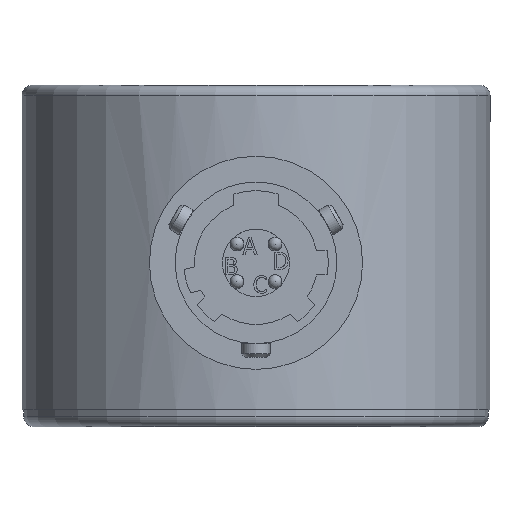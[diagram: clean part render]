
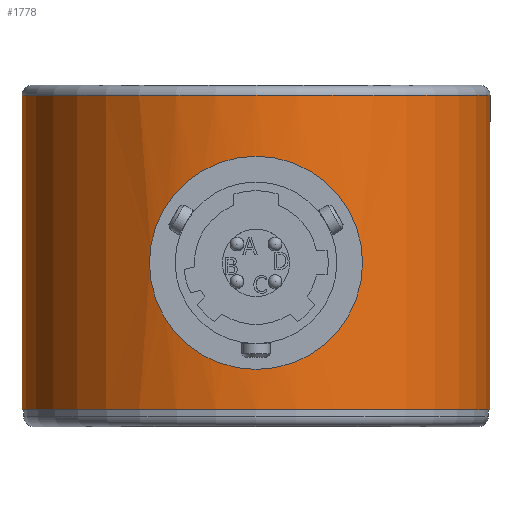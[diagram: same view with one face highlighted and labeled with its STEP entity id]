
A CAD part, front view. The second image highlights one B-rep face of the part: STEP entity #1778.
In plain terms, the highlighted cylindrical face has radius 17.399 mm (diameter 34.798 mm), a full revolution.
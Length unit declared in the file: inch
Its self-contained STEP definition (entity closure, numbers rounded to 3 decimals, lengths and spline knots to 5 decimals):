
#21=B_SPLINE_CURVE_WITH_KNOTS('',3,(#2686,#2687,#2688,#2689,#2690,#2691,
#2692,#2693,#2694,#2695,#2696,#2697,#2698,#2699,#2700,#2701,#2702,#2703),
 .UNSPECIFIED.,.F.,.F.,(4,2,2,2,2,2,2,2,4),(0.,0.3017,0.6034,
0.90458,1.20576,1.50694,1.80812,2.10982,
2.41152),.UNSPECIFIED.);
#22=B_SPLINE_CURVE_WITH_KNOTS('',3,(#2704,#2705,#2706,#2707,#2708,#2709,
#2710,#2711,#2712,#2713,#2714,#2715,#2716,#2717,#2718,#2719,#2720,#2721),
 .UNSPECIFIED.,.F.,.F.,(4,2,2,2,2,2,2,2,4),(2.41152,2.71322,
3.01492,3.3161,3.61728,3.91846,4.21964,
4.52134,4.82304),.UNSPECIFIED.);
#113=FACE_BOUND('',#235,.T.);
#145=FACE_OUTER_BOUND('',#234,.T.);
#234=EDGE_LOOP('',(#1202,#1203,#1204,#1205,#1206,#1207,#1208));
#235=EDGE_LOOP('',(#1209,#1210));
#351=CIRCLE('',#1918,0.685);
#352=CIRCLE('',#1919,0.685);
#353=CIRCLE('',#1920,0.685);
#355=CIRCLE('',#1923,0.685);
#356=CIRCLE('',#1924,0.685);
#443=LINE('',#2683,#553);
#553=VECTOR('',#2193,0.685);
#689=VERTEX_POINT('',#2671);
#690=VERTEX_POINT('',#2672);
#691=VERTEX_POINT('',#2674);
#692=VERTEX_POINT('',#2679);
#693=VERTEX_POINT('',#2680);
#694=VERTEX_POINT('',#2684);
#695=VERTEX_POINT('',#2685);
#901=EDGE_CURVE('',#689,#690,#351,.T.);
#902=EDGE_CURVE('',#691,#689,#352,.T.);
#903=EDGE_CURVE('',#690,#691,#353,.T.);
#905=EDGE_CURVE('',#692,#693,#355,.T.);
#906=EDGE_CURVE('',#693,#692,#356,.T.);
#907=EDGE_CURVE('',#693,#691,#443,.T.);
#908=EDGE_CURVE('',#694,#695,#21,.T.);
#909=EDGE_CURVE('',#695,#694,#22,.T.);
#1202=ORIENTED_EDGE('',*,*,#905,.F.);
#1203=ORIENTED_EDGE('',*,*,#906,.F.);
#1204=ORIENTED_EDGE('',*,*,#907,.T.);
#1205=ORIENTED_EDGE('',*,*,#902,.T.);
#1206=ORIENTED_EDGE('',*,*,#901,.T.);
#1207=ORIENTED_EDGE('',*,*,#903,.T.);
#1208=ORIENTED_EDGE('',*,*,#907,.F.);
#1209=ORIENTED_EDGE('',*,*,#908,.F.);
#1210=ORIENTED_EDGE('',*,*,#909,.F.);
#1650=CYLINDRICAL_SURFACE('',#1922,0.685);
#1778=ADVANCED_FACE('',(#145,#113),#1650,.T.);
#1918=AXIS2_PLACEMENT_3D('',#2673,#2179,#2180);
#1919=AXIS2_PLACEMENT_3D('',#2675,#2181,#2182);
#1920=AXIS2_PLACEMENT_3D('',#2676,#2183,#2184);
#1922=AXIS2_PLACEMENT_3D('',#2678,#2187,#2188);
#1923=AXIS2_PLACEMENT_3D('',#2681,#2189,#2190);
#1924=AXIS2_PLACEMENT_3D('',#2682,#2191,#2192);
#2179=DIRECTION('center_axis',(0.,0.,
-1.));
#2180=DIRECTION('ref_axis',(1.,0.,0.));
#2181=DIRECTION('center_axis',(0.,0.,
-1.));
#2182=DIRECTION('ref_axis',(1.,0.,0.));
#2183=DIRECTION('center_axis',(0.,0.,
-1.));
#2184=DIRECTION('ref_axis',(1.,0.,0.));
#2187=DIRECTION('center_axis',(0.,0.,
-1.));
#2188=DIRECTION('ref_axis',(1.,0.,0.));
#2189=DIRECTION('center_axis',(0.,0.,
-1.));
#2190=DIRECTION('ref_axis',(1.,0.,0.));
#2191=DIRECTION('center_axis',(0.,0.,
-1.));
#2192=DIRECTION('ref_axis',(1.,0.,0.));
#2193=DIRECTION('',(0.,0.,1.));
#2671=CARTESIAN_POINT('',(0.5656,1.12873,0.59636));
#2672=CARTESIAN_POINT('',(-0.1194,0.44373,0.59636));
#2673=CARTESIAN_POINT('Origin',(-0.1194,1.12873,0.59636));
#2674=CARTESIAN_POINT('',(-0.8044,1.12873,0.59636));
#2675=CARTESIAN_POINT('Origin',(-0.1194,1.12873,0.59636));
#2676=CARTESIAN_POINT('Origin',(-0.1194,1.12873,0.59636));
#2678=CARTESIAN_POINT('Origin',(-0.1194,1.12873,0.13636));
#2679=CARTESIAN_POINT('',(0.5656,1.12873,-0.32364));
#2680=CARTESIAN_POINT('',(-0.8044,1.12873,-0.32364));
#2681=CARTESIAN_POINT('Origin',(-0.1194,1.12873,-0.32364));
#2682=CARTESIAN_POINT('Origin',(-0.1194,1.12873,-0.32364));
#2683=CARTESIAN_POINT('',(-0.8044,1.12873,0.13636));
#2684=CARTESIAN_POINT('',(0.1906,0.51789,0.10636));
#2685=CARTESIAN_POINT('',(-0.4294,0.51789,0.10636));
#2686=CARTESIAN_POINT('Ctrl Pts',(0.1906,0.51789,0.10636));
#2687=CARTESIAN_POINT('Ctrl Pts',(0.1906,0.51789,0.14595));
#2688=CARTESIAN_POINT('Ctrl Pts',(0.18257,0.51363,0.18771));
#2689=CARTESIAN_POINT('Ctrl Pts',(0.15078,0.49901,0.26387));
#2690=CARTESIAN_POINT('Ctrl Pts',(0.12704,0.48894,0.29833));
#2691=CARTESIAN_POINT('Ctrl Pts',(0.07262,0.47056,
0.35275));
#2692=CARTESIAN_POINT('Ctrl Pts',(0.03814,0.46096,0.37652));
#2693=CARTESIAN_POINT('Ctrl Pts',(-0.03809,0.44747,
0.40835));
#2694=CARTESIAN_POINT('Ctrl Pts',(-0.07987,0.44373,
0.41636));
#2695=CARTESIAN_POINT('Ctrl Pts',(-0.15892,0.44373,
0.41636));
#2696=CARTESIAN_POINT('Ctrl Pts',(-0.20071,0.44747,
0.40835));
#2697=CARTESIAN_POINT('Ctrl Pts',(-0.27693,0.46096,0.37652));
#2698=CARTESIAN_POINT('Ctrl Pts',(-0.31142,0.47056,0.35275));
#2699=CARTESIAN_POINT('Ctrl Pts',(-0.36583,0.48894,
0.29833));
#2700=CARTESIAN_POINT('Ctrl Pts',(-0.38957,0.49901,
0.26387));
#2701=CARTESIAN_POINT('Ctrl Pts',(-0.42137,0.51363,
0.18771));
#2702=CARTESIAN_POINT('Ctrl Pts',(-0.4294,0.51789,
0.14595));
#2703=CARTESIAN_POINT('Ctrl Pts',(-0.4294,0.51789,
0.10636));
#2704=CARTESIAN_POINT('Ctrl Pts',(-0.4294,0.51789,
0.10636));
#2705=CARTESIAN_POINT('Ctrl Pts',(-0.4294,0.51789,
0.06677));
#2706=CARTESIAN_POINT('Ctrl Pts',(-0.42137,0.51363,
0.02501));
#2707=CARTESIAN_POINT('Ctrl Pts',(-0.38957,0.49901,-0.05114));
#2708=CARTESIAN_POINT('Ctrl Pts',(-0.36583,0.48894,
-0.08561));
#2709=CARTESIAN_POINT('Ctrl Pts',(-0.31142,0.47056,-0.14003));
#2710=CARTESIAN_POINT('Ctrl Pts',(-0.27693,0.46096,
-0.1638));
#2711=CARTESIAN_POINT('Ctrl Pts',(-0.20071,0.44747,
-0.19562));
#2712=CARTESIAN_POINT('Ctrl Pts',(-0.15892,0.44373,
-0.20364));
#2713=CARTESIAN_POINT('Ctrl Pts',(-0.07987,0.44373,
-0.20364));
#2714=CARTESIAN_POINT('Ctrl Pts',(-0.03809,0.44747,
-0.19562));
#2715=CARTESIAN_POINT('Ctrl Pts',(0.03814,0.46096,
-0.1638));
#2716=CARTESIAN_POINT('Ctrl Pts',(0.07262,0.47056,-0.14003));
#2717=CARTESIAN_POINT('Ctrl Pts',(0.12704,0.48894,-0.08561));
#2718=CARTESIAN_POINT('Ctrl Pts',(0.15078,0.49901,-0.05114));
#2719=CARTESIAN_POINT('Ctrl Pts',(0.18257,0.51363,0.02501));
#2720=CARTESIAN_POINT('Ctrl Pts',(0.1906,0.51789,0.06677));
#2721=CARTESIAN_POINT('Ctrl Pts',(0.1906,0.51789,0.10636));
